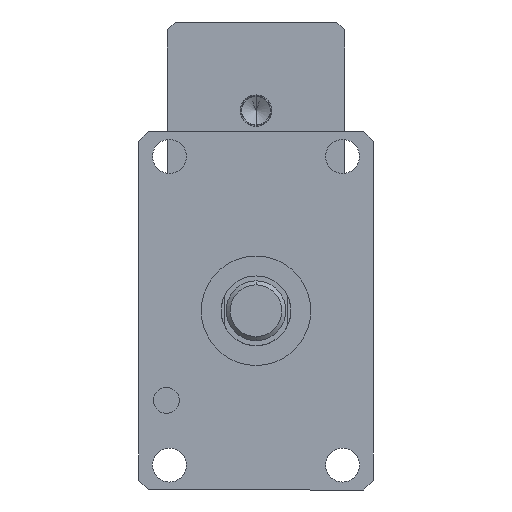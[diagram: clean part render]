
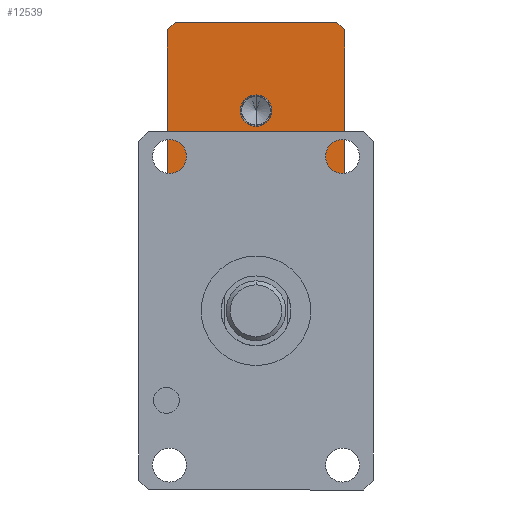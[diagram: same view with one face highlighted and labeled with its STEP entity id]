
A CAD part, front view. The second image highlights one B-rep face of the part: STEP entity #12539.
In plain terms, the highlighted planar face has unit normal (0, -1, 0).
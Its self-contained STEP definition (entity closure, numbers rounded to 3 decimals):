
#254 = DIRECTION ( 'NONE',  ( 0., 0., -1. ) ) ;
#570 = CARTESIAN_POINT ( 'NONE',  ( 0., 210., 100.5 ) ) ;
#686 = VECTOR ( 'NONE', #9635, 1000. ) ;
#744 = CARTESIAN_POINT ( 'NONE',  ( 40.5, 210., 145. ) ) ;
#863 = VERTEX_POINT ( 'NONE', #4870 ) ;
#1268 = VERTEX_POINT ( 'NONE', #5775 ) ;
#1316 = VECTOR ( 'NONE', #9554, 1000. ) ;
#1366 = ORIENTED_EDGE ( 'NONE', *, *, #7612, .T. ) ;
#1476 = EDGE_CURVE ( 'NONE', #6853, #863, #1697, .T. ) ;
#1554 = DIRECTION ( 'NONE',  ( 0., 0., -1. ) ) ;
#1697 = CIRCLE ( 'NONE', #3027, 7.903 ) ;
#1731 = VECTOR ( 'NONE', #6484, 1000. ) ;
#1767 = FACE_BOUND ( 'NONE', #6419, .T. ) ;
#1979 = CARTESIAN_POINT ( 'NONE',  ( 0., 210., 108.403 ) ) ;
#2234 = LINE ( 'NONE', #9481, #7149 ) ;
#2319 = CARTESIAN_POINT ( 'NONE',  ( -44.5, 210., 141. ) ) ;
#2489 = ORIENTED_EDGE ( 'NONE', *, *, #7484, .T. ) ;
#2494 = DIRECTION ( 'NONE',  ( 0., 0., 1. ) ) ;
#2662 = CARTESIAN_POINT ( 'NONE',  ( -40.5, 210., 145. ) ) ;
#2743 = CARTESIAN_POINT ( 'NONE',  ( 44.5, 210., 56. ) ) ;
#2844 = VERTEX_POINT ( 'NONE', #10447 ) ;
#3027 = AXIS2_PLACEMENT_3D ( 'NONE', #10016, #4211, #10998 ) ;
#3186 = AXIS2_PLACEMENT_3D ( 'NONE', #6367, #8389, #2494 ) ;
#3247 = CARTESIAN_POINT ( 'NONE',  ( -40.5, 210., 56. ) ) ;
#3459 = LINE ( 'NONE', #7838, #10566 ) ;
#3506 = AXIS2_PLACEMENT_3D ( 'NONE', #570, #7438, #1554 ) ;
#4178 = VERTEX_POINT ( 'NONE', #3247 ) ;
#4192 = ORIENTED_EDGE ( 'NONE', *, *, #8187, .T. ) ;
#4211 = DIRECTION ( 'NONE',  ( 0., -1., 0. ) ) ;
#4242 = ORIENTED_EDGE ( 'NONE', *, *, #7921, .T. ) ;
#4319 = DIRECTION ( 'NONE',  ( -0.707, 0., 0.707 ) ) ;
#4514 = VERTEX_POINT ( 'NONE', #10322 ) ;
#4578 = ORIENTED_EDGE ( 'NONE', *, *, #8115, .F. ) ;
#4870 = CARTESIAN_POINT ( 'NONE',  ( 0., 210., 92.597 ) ) ;
#5437 = VECTOR ( 'NONE', #254, 1000. ) ;
#5775 = CARTESIAN_POINT ( 'NONE',  ( 40.5, 210., 56. ) ) ;
#5843 = DIRECTION ( 'NONE',  ( 0., 0., -1. ) ) ;
#5884 = LINE ( 'NONE', #10557, #686 ) ;
#5932 = VERTEX_POINT ( 'NONE', #744 ) ;
#6028 = VERTEX_POINT ( 'NONE', #11512 ) ;
#6114 = CARTESIAN_POINT ( 'NONE',  ( -44.5, 210., 145. ) ) ;
#6359 = ORIENTED_EDGE ( 'NONE', *, *, #7804, .F. ) ;
#6367 = CARTESIAN_POINT ( 'NONE',  ( 44.5, 210., 145. ) ) ;
#6419 = EDGE_LOOP ( 'NONE', ( #11822, #12617 ) ) ;
#6484 = DIRECTION ( 'NONE',  ( 1., 0., 0. ) ) ;
#6515 = LINE ( 'NONE', #2743, #1316 ) ;
#6801 = LINE ( 'NONE', #10122, #9385 ) ;
#6853 = VERTEX_POINT ( 'NONE', #1979 ) ;
#7059 = CARTESIAN_POINT ( 'NONE',  ( -44.5, 210., 60. ) ) ;
#7149 = VECTOR ( 'NONE', #10442, 1000. ) ;
#7222 = EDGE_CURVE ( 'NONE', #8864, #10155, #8069, .T. ) ;
#7396 = EDGE_CURVE ( 'NONE', #863, #6853, #8799, .T. ) ;
#7438 = DIRECTION ( 'NONE',  ( 0., -1., 0. ) ) ;
#7484 = EDGE_CURVE ( 'NONE', #10155, #4178, #2234, .T. ) ;
#7540 = EDGE_CURVE ( 'NONE', #4178, #1268, #6515, .T. ) ;
#7612 = EDGE_CURVE ( 'NONE', #1268, #4514, #5884, .T. ) ;
#7804 = EDGE_CURVE ( 'NONE', #6028, #4514, #3459, .T. ) ;
#7838 = CARTESIAN_POINT ( 'NONE',  ( 44.5, 210., 145. ) ) ;
#7921 = EDGE_CURVE ( 'NONE', #6028, #5932, #6801, .T. ) ;
#8069 = LINE ( 'NONE', #6114, #5437 ) ;
#8115 = EDGE_CURVE ( 'NONE', #2844, #5932, #9250, .T. ) ;
#8187 = EDGE_CURVE ( 'NONE', #2844, #8864, #8359, .T. ) ;
#8256 = ORIENTED_EDGE ( 'NONE', *, *, #7222, .T. ) ;
#8359 = LINE ( 'NONE', #2662, #10551 ) ;
#8389 = DIRECTION ( 'NONE',  ( 0., 1., 0. ) ) ;
#8799 = CIRCLE ( 'NONE', #3506, 7.903 ) ;
#8864 = VERTEX_POINT ( 'NONE', #2319 ) ;
#9250 = LINE ( 'NONE', #12266, #1731 ) ;
#9284 = FACE_OUTER_BOUND ( 'NONE', #10223, .T. ) ;
#9385 = VECTOR ( 'NONE', #4319, 1000. ) ;
#9395 = ORIENTED_EDGE ( 'NONE', *, *, #7540, .T. ) ;
#9481 = CARTESIAN_POINT ( 'NONE',  ( -44.5, 210., 60. ) ) ;
#9554 = DIRECTION ( 'NONE',  ( 1., 0., 0. ) ) ;
#9635 = DIRECTION ( 'NONE',  ( 0.707, 0., 0.707 ) ) ;
#10016 = CARTESIAN_POINT ( 'NONE',  ( 0., 210., 100.5 ) ) ;
#10122 = CARTESIAN_POINT ( 'NONE',  ( 40.5, 210., 145. ) ) ;
#10155 = VERTEX_POINT ( 'NONE', #7059 ) ;
#10223 = EDGE_LOOP ( 'NONE', ( #8256, #2489, #9395, #1366, #6359, #4242, #4578, #4192 ) ) ;
#10322 = CARTESIAN_POINT ( 'NONE',  ( 44.5, 210., 60. ) ) ;
#10442 = DIRECTION ( 'NONE',  ( 0.707, 0., -0.707 ) ) ;
#10447 = CARTESIAN_POINT ( 'NONE',  ( -40.5, 210., 145. ) ) ;
#10551 = VECTOR ( 'NONE', #12340, 1000. ) ;
#10557 = CARTESIAN_POINT ( 'NONE',  ( 44.5, 210., 60. ) ) ;
#10566 = VECTOR ( 'NONE', #5843, 1000. ) ;
#10998 = DIRECTION ( 'NONE',  ( 0., 0., -1. ) ) ;
#11512 = CARTESIAN_POINT ( 'NONE',  ( 44.5, 210., 141. ) ) ;
#11822 = ORIENTED_EDGE ( 'NONE', *, *, #7396, .F. ) ;
#12185 = PLANE ( 'NONE',  #3186 ) ;
#12266 = CARTESIAN_POINT ( 'NONE',  ( 44.5, 210., 145. ) ) ;
#12340 = DIRECTION ( 'NONE',  ( -0.707, 0., -0.707 ) ) ;
#12539 = ADVANCED_FACE ( 'NONE', ( #1767, #9284 ), #12185, .F. ) ;
#12617 = ORIENTED_EDGE ( 'NONE', *, *, #1476, .F. ) ;
